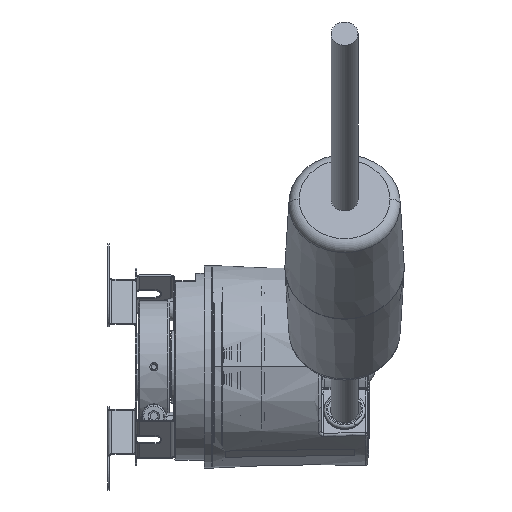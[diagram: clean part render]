
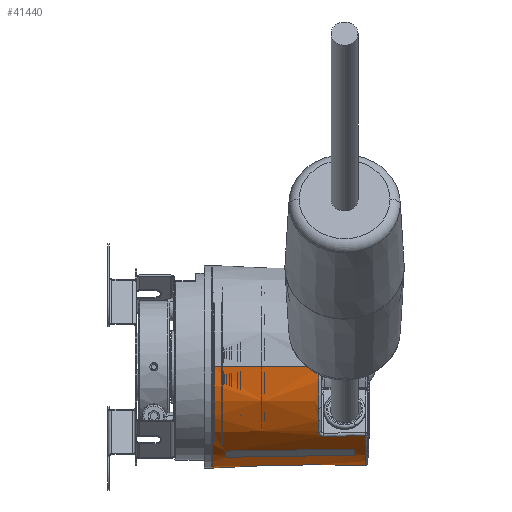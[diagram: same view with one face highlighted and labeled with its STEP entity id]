
A CAD part, front view. The second image highlights one B-rep face of the part: STEP entity #41440.
In plain terms, the highlighted conical face has half-angle 1 degrees and reference radius 18.976 mm.
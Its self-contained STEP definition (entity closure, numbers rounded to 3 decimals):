
#4311 = DIRECTION ( 'NONE',  ( 0., 1., 0. ) ) ;
#4312 = DIRECTION ( 'NONE',  ( -1., 0., 0. ) ) ;
#4313 = CARTESIAN_POINT ( 'NONE',  ( 41.709, 0., 0. ) ) ;
#4314 = AXIS2_PLACEMENT_3D ( 'NONE', #4313, #4312, #4311 ) ;
#4318 = CIRCLE ( 'NONE', #4314, 18.985 ) ;
#4468 = CARTESIAN_POINT ( 'NONE',  ( 41.709, 18.985, 0. ) ) ;
#4524 = CARTESIAN_POINT ( 'NONE',  ( 41.709, -13.586, -13.261 ) ) ;
#21819 = CARTESIAN_POINT ( 'NONE',  ( 12.2, 19.5, 0. ) ) ;
#21897 = CARTESIAN_POINT ( 'NONE',  ( 12.2, -19.5, 0. ) ) ;
#21906 = DIRECTION ( 'NONE',  ( -1., 0.017, 0. ) ) ;
#21907 = VECTOR ( 'NONE', #21906, 1000. ) ;
#21909 = CARTESIAN_POINT ( 'NONE',  ( 42.2, 18.976, 0. ) ) ;
#21920 = LINE ( 'NONE', #21909, #21907 ) ;
#22156 = DIRECTION ( 'NONE',  ( -1., -0.017, 0. ) ) ;
#22157 = VECTOR ( 'NONE', #22156, 1000. ) ;
#22159 = CARTESIAN_POINT ( 'NONE',  ( 42.2, -18.976, 0. ) ) ;
#22160 = LINE ( 'NONE', #22159, #22157 ) ;
#22446 = CARTESIAN_POINT ( 'NONE',  ( 32.709, -19.142, 0. ) ) ;
#22473 = DIRECTION ( 'NONE',  ( 0., -1., 0. ) ) ;
#22474 = DIRECTION ( 'NONE',  ( -1., 0., 0. ) ) ;
#22475 = AXIS2_PLACEMENT_3D ( 'NONE', #22477, #22474, #22473 ) ;
#22477 = CARTESIAN_POINT ( 'NONE',  ( 42.2, 0., 0. ) ) ;
#22478 = CONICAL_SURFACE ( 'NONE', #22475, 18.976, 0.017 ) ;
#22479 = FACE_BOUND ( 'NONE', #41530, .T. ) ;
#22480 = FACE_OUTER_BOUND ( 'NONE', #41771, .T. ) ;
#22507 = DIRECTION ( 'NONE',  ( 0., -1., 0. ) ) ;
#22508 = DIRECTION ( 'NONE',  ( 1., 0., 0. ) ) ;
#22509 = CARTESIAN_POINT ( 'NONE',  ( 14.7, 0., 0. ) ) ;
#22511 = AXIS2_PLACEMENT_3D ( 'NONE', #22509, #22508, #22507 ) ;
#22517 = CIRCLE ( 'NONE', #22511, 19.456 ) ;
#22603 = DIRECTION ( 'NONE',  ( 0., 1., 0. ) ) ;
#22604 = DIRECTION ( 'NONE',  ( 1., 0., 0. ) ) ;
#22605 = CARTESIAN_POINT ( 'NONE',  ( 12.2, 0., 0. ) ) ;
#22606 = AXIS2_PLACEMENT_3D ( 'NONE', #22605, #22604, #22603 ) ;
#22607 = CIRCLE ( 'NONE', #22606, 19.5 ) ;
#22614 = CARTESIAN_POINT ( 'NONE',  ( 39.7, -10.51, -15.853 ) ) ;
#22629 = CARTESIAN_POINT ( 'NONE',  ( 14.7, -10.74, -16.224 ) ) ;
#22654 = DIRECTION ( 'NONE',  ( 0., -1., 0. ) ) ;
#22655 = DIRECTION ( 'NONE',  ( 1., 0., 0. ) ) ;
#22656 = CARTESIAN_POINT ( 'NONE',  ( 39.7, 0., 0. ) ) ;
#22657 = AXIS2_PLACEMENT_3D ( 'NONE', #22656, #22655, #22654 ) ;
#22658 = CIRCLE ( 'NONE', #22657, 19.02 ) ;
#22832 = DIRECTION ( 'NONE',  ( 0., 1., 0. ) ) ;
#22833 = DIRECTION ( 'NONE',  ( -1., 0., 0. ) ) ;
#22834 = CARTESIAN_POINT ( 'NONE',  ( 32.709, 0., 0. ) ) ;
#22835 = AXIS2_PLACEMENT_3D ( 'NONE', #22834, #22833, #22832 ) ;
#22836 = CIRCLE ( 'NONE', #22835, 19.142 ) ;
#22846 = CARTESIAN_POINT ( 'NONE',  ( 14.7, -10.74, -16.224 ) ) ;
#22847 = CARTESIAN_POINT ( 'NONE',  ( 23.033, -10.663, -16.1 ) ) ;
#22848 = CARTESIAN_POINT ( 'NONE',  ( 31.367, -10.586, -15.976 ) ) ;
#22849 = CARTESIAN_POINT ( 'NONE',  ( 39.7, -10.51, -15.853 ) ) ;
#22850 = B_SPLINE_CURVE_WITH_KNOTS ( 'NONE', 3,
 ( #22849, #22848, #22847, #22846 ),
 .UNSPECIFIED., .F., .F.,
 ( 4, 4 ),
 ( 0., 0.025 ),
 .UNSPECIFIED. ) ;
#22896 = CARTESIAN_POINT ( 'NONE',  ( 39.7, -8.474, -17.028 ) ) ;
#22985 = CARTESIAN_POINT ( 'NONE',  ( 32.709, -14.397, -12.615 ) ) ;
#22989 = B_SPLINE_CURVE_WITH_KNOTS ( 'NONE', 3,
 ( #23057, #23055, #23053, #23052, #23051, #23050, #23049, #23048, #23047, #23046 ),
 .UNSPECIFIED., .F., .F.,
 ( 4, 3, 3, 4 ),
 ( 0., 0.001, 0.005, 0.008 ),
 .UNSPECIFIED. ) ;
#23027 = CARTESIAN_POINT ( 'NONE',  ( 33.709, -13.658, -13.387 ) ) ;
#23028 = CARTESIAN_POINT ( 'NONE',  ( 33.572, -13.659, -13.389 ) ) ;
#23029 = CARTESIAN_POINT ( 'NONE',  ( 33.437, -13.681, -13.37 ) ) ;
#23032 = CARTESIAN_POINT ( 'NONE',  ( 33.19, -13.762, -13.293 ) ) ;
#23033 = CARTESIAN_POINT ( 'NONE',  ( 33.079, -13.821, -13.235 ) ) ;
#23034 = CARTESIAN_POINT ( 'NONE',  ( 32.898, -13.961, -13.091 ) ) ;
#23035 = CARTESIAN_POINT ( 'NONE',  ( 32.827, -14.044, -13.005 ) ) ;
#23036 = CARTESIAN_POINT ( 'NONE',  ( 32.733, -14.216, -12.819 ) ) ;
#23037 = CARTESIAN_POINT ( 'NONE',  ( 32.709, -14.307, -12.718 ) ) ;
#23038 = CARTESIAN_POINT ( 'NONE',  ( 32.709, -14.397, -12.615 ) ) ;
#23041 = B_SPLINE_CURVE_WITH_KNOTS ( 'NONE', 3,
 ( #23038, #23037, #23036, #23035, #23034, #23033, #23032, #23029, #23028, #23027 ),
 .UNSPECIFIED., .F., .F.,
 ( 4, 2, 2, 2, 4 ),
 ( 0., 0., 0.001, 0.001, 0.002 ),
 .UNSPECIFIED. ) ;
#23042 = CARTESIAN_POINT ( 'NONE',  ( 33.709, -13.658, -13.387 ) ) ;
#23046 = CARTESIAN_POINT ( 'NONE',  ( 33.709, -13.658, -13.387 ) ) ;
#23047 = CARTESIAN_POINT ( 'NONE',  ( 34.709, -13.649, -13.371 ) ) ;
#23048 = CARTESIAN_POINT ( 'NONE',  ( 35.709, -13.64, -13.356 ) ) ;
#23049 = CARTESIAN_POINT ( 'NONE',  ( 36.71, -13.631, -13.34 ) ) ;
#23050 = CARTESIAN_POINT ( 'NONE',  ( 38.043, -13.619, -13.319 ) ) ;
#23051 = CARTESIAN_POINT ( 'NONE',  ( 39.376, -13.607, -13.298 ) ) ;
#23052 = CARTESIAN_POINT ( 'NONE',  ( 40.709, -13.595, -13.277 ) ) ;
#23053 = CARTESIAN_POINT ( 'NONE',  ( 41.042, -13.592, -13.271 ) ) ;
#23055 = CARTESIAN_POINT ( 'NONE',  ( 41.375, -13.589, -13.266 ) ) ;
#23057 = CARTESIAN_POINT ( 'NONE',  ( 41.709, -13.586, -13.261 ) ) ;
#23174 = CARTESIAN_POINT ( 'NONE',  ( 14.7, -8.68, -17.413 ) ) ;
#29576 = B_SPLINE_CURVE_WITH_KNOTS ( 'NONE', 3,
 ( #31681, #31693, #31360, #31374 ),
 .UNSPECIFIED., .F., .F.,
 ( 4, 4 ),
 ( 0., 0.025 ),
 .UNSPECIFIED. ) ;
#31360 = CARTESIAN_POINT ( 'NONE',  ( 31.367, -8.543, -17.156 ) ) ;
#31374 = CARTESIAN_POINT ( 'NONE',  ( 39.7, -8.474, -17.028 ) ) ;
#31681 = CARTESIAN_POINT ( 'NONE',  ( 14.7, -8.68, -17.413 ) ) ;
#31693 = CARTESIAN_POINT ( 'NONE',  ( 23.033, -8.611, -17.284 ) ) ;
#41184 = VERTEX_POINT ( 'NONE', #21819 ) ;
#41220 = EDGE_CURVE ( 'NONE', #50702, #41184, #21920, .T. ) ;
#41223 = VERTEX_POINT ( 'NONE', #21897 ) ;
#41318 = EDGE_CURVE ( 'NONE', #41415, #41223, #22160, .T. ) ;
#41415 = VERTEX_POINT ( 'NONE', #22446 ) ;
#41440 = ADVANCED_FACE ( 'NONE', ( #22480, #22479 ), #22478, .T. ) ;
#41454 = ORIENTED_EDGE ( 'NONE', *, *, #41456, .F. ) ;
#41456 = EDGE_CURVE ( 'NONE', #41515, #41827, #22517, .T. ) ;
#41495 = ORIENTED_EDGE ( 'NONE', *, *, #41496, .T. ) ;
#41496 = EDGE_CURVE ( 'NONE', #41223, #41184, #22607, .T. ) ;
#41497 = ORIENTED_EDGE ( 'NONE', *, *, #41637, .F. ) ;
#41515 = VERTEX_POINT ( 'NONE', #22629 ) ;
#41521 = VERTEX_POINT ( 'NONE', #22614 ) ;
#41530 = EDGE_LOOP ( 'NONE', ( #41497, #41535, #41539, #41454 ) ) ;
#41535 = ORIENTED_EDGE ( 'NONE', *, *, #41536, .T. ) ;
#41536 = EDGE_CURVE ( 'NONE', #41521, #41678, #22658, .T. ) ;
#41539 = ORIENTED_EDGE ( 'NONE', *, *, #41541, .F. ) ;
#41541 = EDGE_CURVE ( 'NONE', #41827, #41678, #29576, .T. ) ;
#41635 = ORIENTED_EDGE ( 'NONE', *, *, #41318, .T. ) ;
#41637 = EDGE_CURVE ( 'NONE', #41521, #41515, #22850, .T. ) ;
#41642 = ORIENTED_EDGE ( 'NONE', *, *, #50611, .T. ) ;
#41645 = EDGE_CURVE ( 'NONE', #41732, #41415, #22836, .T. ) ;
#41678 = VERTEX_POINT ( 'NONE', #22896 ) ;
#41728 = ORIENTED_EDGE ( 'NONE', *, *, #41729, .T. ) ;
#41729 = EDGE_CURVE ( 'NONE', #50709, #41734, #22989, .T. ) ;
#41732 = VERTEX_POINT ( 'NONE', #22985 ) ;
#41734 = VERTEX_POINT ( 'NONE', #23042 ) ;
#41735 = EDGE_CURVE ( 'NONE', #41732, #41734, #23041, .T. ) ;
#41771 = EDGE_LOOP ( 'NONE', ( #41823, #41642, #41728, #41801, #41832, #41635, #41495 ) ) ;
#41801 = ORIENTED_EDGE ( 'NONE', *, *, #41735, .F. ) ;
#41823 = ORIENTED_EDGE ( 'NONE', *, *, #41220, .F. ) ;
#41827 = VERTEX_POINT ( 'NONE', #23174 ) ;
#41832 = ORIENTED_EDGE ( 'NONE', *, *, #41645, .T. ) ;
#50611 = EDGE_CURVE ( 'NONE', #50702, #50709, #4318, .T. ) ;
#50702 = VERTEX_POINT ( 'NONE', #4468 ) ;
#50709 = VERTEX_POINT ( 'NONE', #4524 ) ;
